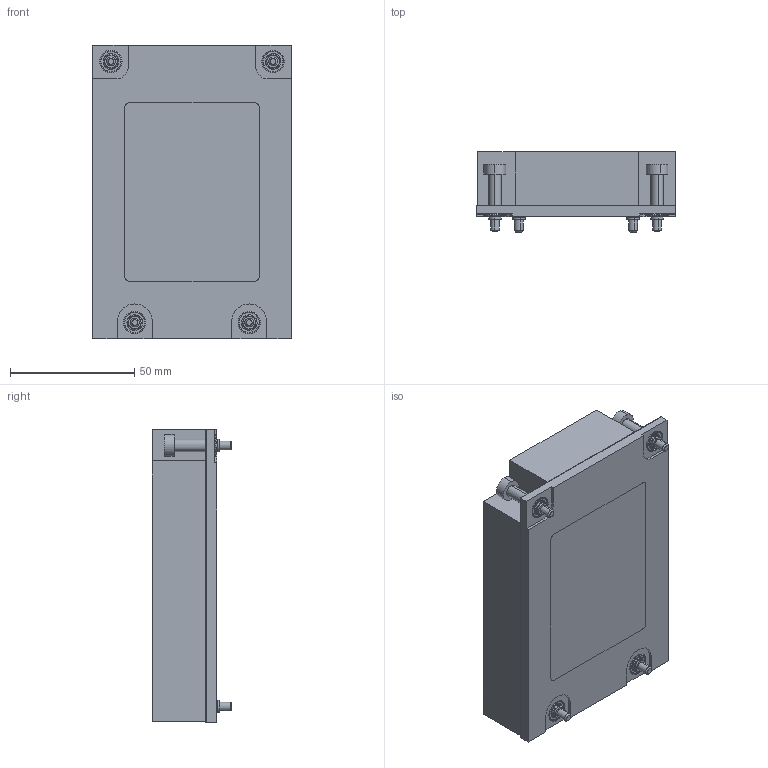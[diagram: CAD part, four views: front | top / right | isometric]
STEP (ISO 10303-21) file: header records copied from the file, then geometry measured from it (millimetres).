
FILE_DESCRIPTION (( 'STEP AP214' ), '1' );
FILE_NAME ('RGM5110-PME.STEP', '2023-07-24T10:02:14', ( '' ), ( '' ), 'SwSTEP 2.0', 'SolidWorks 2019', '' );
FILE_SCHEMA (( 'AUTOMOTIVE_DESIGN' ));
Length unit declared in the file: millimetre
Products named in the file (10): RGM5110-P_SpringScrew_ME; RGM5110-P_ｦｩFin _ME; RGM5110-P_O_Ring; RGM5110-P_base-3DME; RGM5110-P_Cu base; RGM5110-PME; RGM5110-P_Screw
Assembly tree (15 placements, depth 3):
  RGM5110-PME
    RGM5110-P_base-3DME
    RGM5110-P_ｦｩFin _ME
    RGM5110-P_Cu base
    RGM5110-P_SpringScrew_ME
      RGM5110-P_Screw
      RGM5110-P_O_Ring
    RGM5110-P_SpringScrew_ME
      RGM5110-P_Screw
      RGM5110-P_O_Ring
    RGM5110-P_SpringScrew_ME
      RGM5110-P_Screw
      RGM5110-P_O_Ring
    RGM5110-P_SpringScrew_ME
      RGM5110-P_Screw
      RGM5110-P_O_Ring
Bounding box: 80 x 32.12 x 118 mm (x, y, z)
Volume: 228039.3 mm3; surface area: 58657 mm2
Topology: 11 solids, 11 shells, 611 faces, 1452 edges, 888 vertices
Faces by surface type: bspline 192, plane 135, cone 116, cylinder 96, torus 72
Entity records: 8813 total; most frequent: CARTESIAN_POINT 3955, ORIENTED_EDGE 1008, DIRECTION 827, EDGE_CURVE 504, VERTEX_POINT 315, AXIS2_PLACEMENT_3D 299, LINE 229, VECTOR 229
